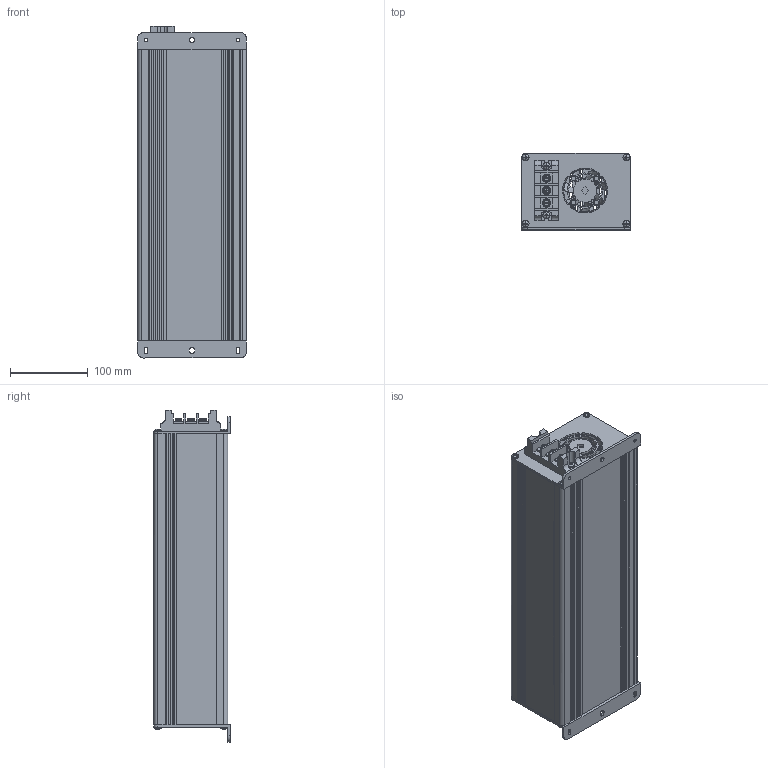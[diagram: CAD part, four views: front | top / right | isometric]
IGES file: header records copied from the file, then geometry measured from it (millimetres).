
Global section: file name: DH375; native system: Autodesk Inventor 2021; preprocessor: unknown; author: eunsol jang; date: 20220616.144340; units: inch
Bounding box: 140 x 98.5 x 427.5 mm (x, y, z)
Volume: 690335.3 mm3; surface area: 480625.3 mm2
Topology: 1 solids, 1 shells, 1124 faces, 3185 edges, 2078 vertices
Faces by surface type: bspline 1124
